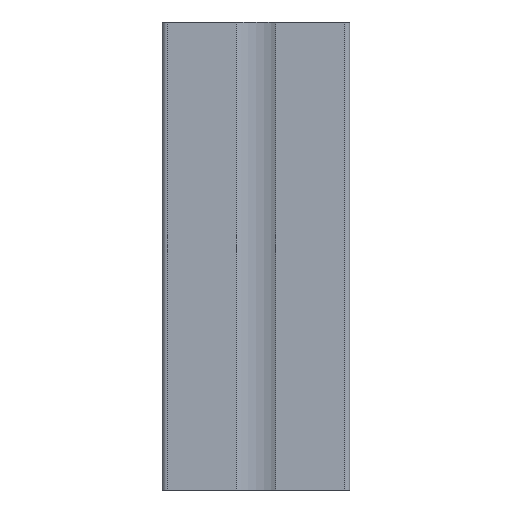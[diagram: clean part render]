
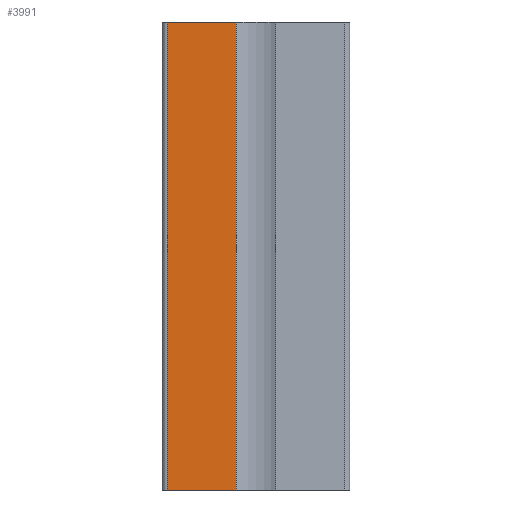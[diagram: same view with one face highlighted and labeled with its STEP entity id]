
A CAD part, left-side view. The second image highlights one B-rep face of the part: STEP entity #3991.
In plain terms, the highlighted planar face has unit normal (-1, 0, 0).
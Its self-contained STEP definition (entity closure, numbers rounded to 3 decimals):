
#205 = ORIENTED_EDGE ( 'NONE', *, *, #1126, .F. ) ;
#213 = CARTESIAN_POINT ( 'NONE',  ( -20., 19., 50. ) ) ;
#366 = DIRECTION ( 'NONE',  ( 0., -1., 0. ) ) ;
#399 = LINE ( 'NONE', #6216, #1129 ) ;
#614 = EDGE_CURVE ( 'NONE', #2383, #2802, #3561, .T. ) ;
#726 = FACE_OUTER_BOUND ( 'NONE', #2769, .T. ) ;
#728 = CARTESIAN_POINT ( 'NONE',  ( -20., 19., 50. ) ) ;
#830 = DIRECTION ( 'NONE',  ( 0., 0., -1. ) ) ;
#1126 = EDGE_CURVE ( 'NONE', #2383, #6013, #399, .T. ) ;
#1129 = VECTOR ( 'NONE', #366, 1000. ) ;
#1360 = VECTOR ( 'NONE', #4760, 1000. ) ;
#1501 = VECTOR ( 'NONE', #830, 1000. ) ;
#1564 = EDGE_CURVE ( 'NONE', #2802, #4202, #5051, .T. ) ;
#1680 = VECTOR ( 'NONE', #2617, 1000. ) ;
#1684 = DIRECTION ( 'NONE',  ( 1., 0., 0. ) ) ;
#2078 = ORIENTED_EDGE ( 'NONE', *, *, #1564, .T. ) ;
#2383 = VERTEX_POINT ( 'NONE', #728 ) ;
#2602 = DIRECTION ( 'NONE',  ( 0., 0., -1. ) ) ;
#2617 = DIRECTION ( 'NONE',  ( 0., -1., 0. ) ) ;
#2769 = EDGE_LOOP ( 'NONE', ( #2078, #2992, #205, #5216 ) ) ;
#2802 = VERTEX_POINT ( 'NONE', #5156 ) ;
#2803 = LINE ( 'NONE', #3729, #1360 ) ;
#2834 = CARTESIAN_POINT ( 'NONE',  ( -20., 4.2, 50. ) ) ;
#2992 = ORIENTED_EDGE ( 'NONE', *, *, #4087, .F. ) ;
#3112 = CARTESIAN_POINT ( 'NONE',  ( -20., 19., 50. ) ) ;
#3561 = LINE ( 'NONE', #213, #1501 ) ;
#3592 = PLANE ( 'NONE',  #5897 ) ;
#3729 = CARTESIAN_POINT ( 'NONE',  ( -20., 4.2, 50. ) ) ;
#3893 = CARTESIAN_POINT ( 'NONE',  ( -20., 4.2, -50. ) ) ;
#3991 = ADVANCED_FACE ( 'NONE', ( #726 ), #3592, .F. ) ;
#4087 = EDGE_CURVE ( 'NONE', #6013, #4202, #2803, .T. ) ;
#4202 = VERTEX_POINT ( 'NONE', #3893 ) ;
#4760 = DIRECTION ( 'NONE',  ( 0., 0., -1. ) ) ;
#5051 = LINE ( 'NONE', #6147, #1680 ) ;
#5156 = CARTESIAN_POINT ( 'NONE',  ( -20., 19., -50. ) ) ;
#5216 = ORIENTED_EDGE ( 'NONE', *, *, #614, .T. ) ;
#5897 = AXIS2_PLACEMENT_3D ( 'NONE', #3112, #1684, #2602 ) ;
#6013 = VERTEX_POINT ( 'NONE', #2834 ) ;
#6147 = CARTESIAN_POINT ( 'NONE',  ( -20., 19., -50. ) ) ;
#6216 = CARTESIAN_POINT ( 'NONE',  ( -20., 19., 50. ) ) ;
